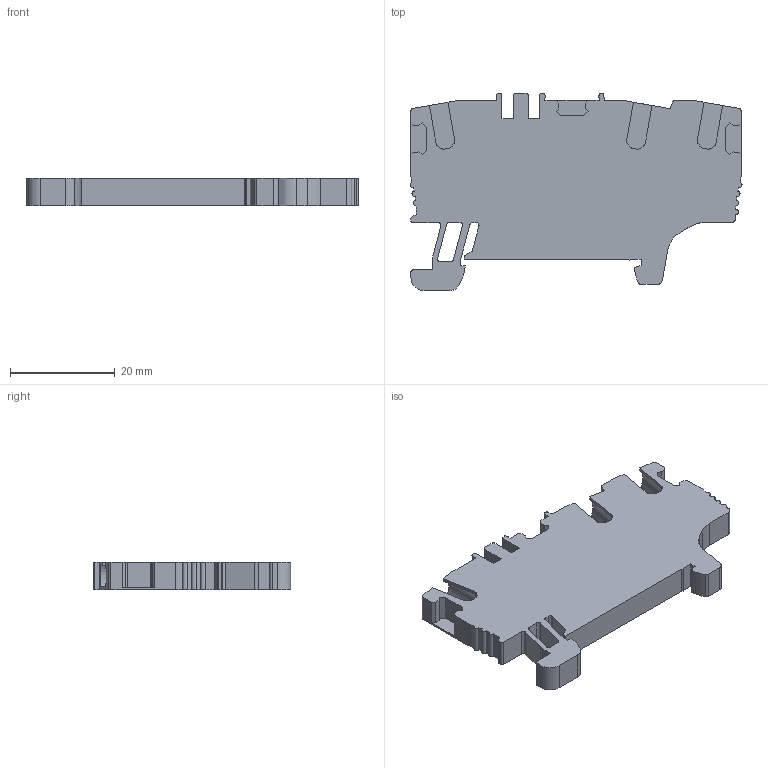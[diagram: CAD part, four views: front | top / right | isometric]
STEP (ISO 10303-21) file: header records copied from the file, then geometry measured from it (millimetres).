
FILE_DESCRIPTION(('Creo Elements/Direct Modeling STEP Export'),'2;1');
FILE_NAME('EFC.2_1+2.stp','2018-11-08T 9:38:48',(''),(''),'Creo Elements/Direct Modeling STEP processor for AP214 (Solid Model)','Creo Elements/Direct Modeling 20.1 10-Mar-2018 (C) Parametric Technology GmbH','');
FILE_SCHEMA(('AUTOMOTIVE_DESIGN { 1 0 10303 214 1 1 1 1 }'));
Length unit declared in the file: millimetre
Products named in the file (1): EFC.2_1+2
Bounding box: 63.46 x 37.7 x 5.2 mm (x, y, z)
Volume: 8463.2 mm3; surface area: 5558.7 mm2
Topology: 1 solids, 1 shells, 236 faces, 684 edges, 456 vertices
Faces by surface type: plane 164, cylinder 72
Entity records: 7970 total; most frequent: ORIENTED_EDGE 1368, CARTESIAN_POINT 1360, DIRECTION 1281, EDGE_CURVE 684, VECTOR 527, LINE 527, VERTEX_POINT 456, AXIS2_PLACEMENT_3D 377
